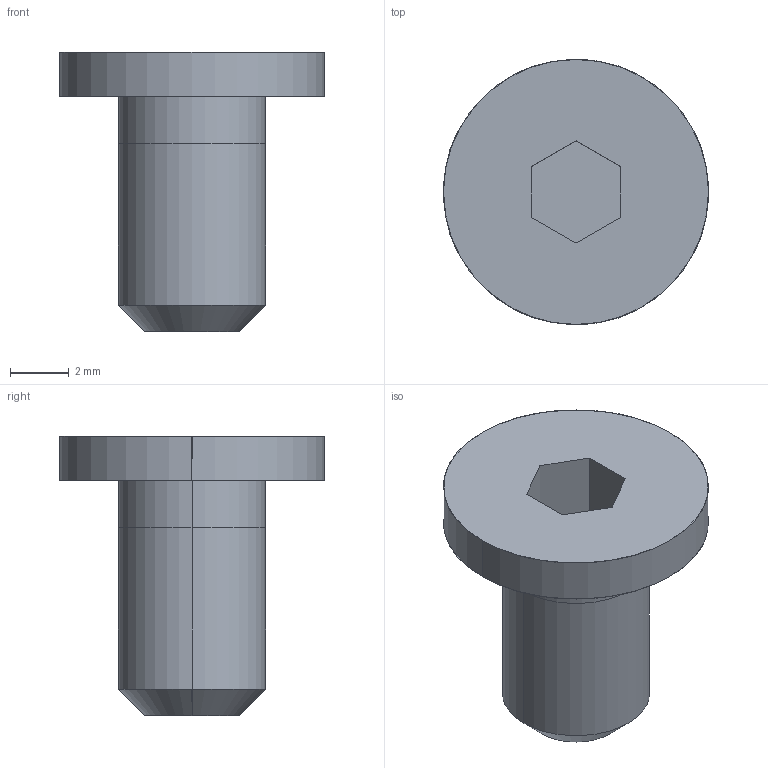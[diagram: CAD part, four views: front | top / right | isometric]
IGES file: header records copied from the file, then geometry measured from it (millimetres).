
Global section: file name: E:\UnigraphicsGraphicData\MISUMI_PRESS-PARTS\IGES\3d_cbss5-8_03485_r00.igs; native system: NX V5.0; preprocessor: UGS NX IGES V5.0; author: MISUMI; date: 20110105.160202; units: millimetre
Bounding box: 9 x 9 x 9.5 mm (x, y, z)
Surface area: 317.5 mm2 (no closed solid volume)
Topology: 0 solids, 0 shells, 18 faces, 100 edges, 100 vertices
Faces by surface type: bspline 18
